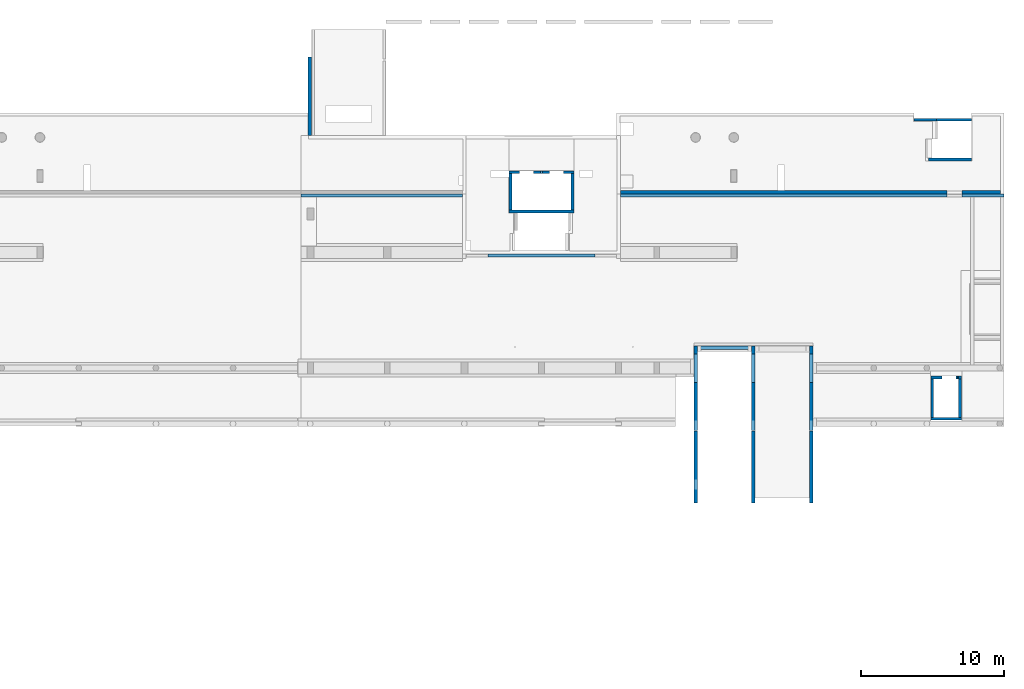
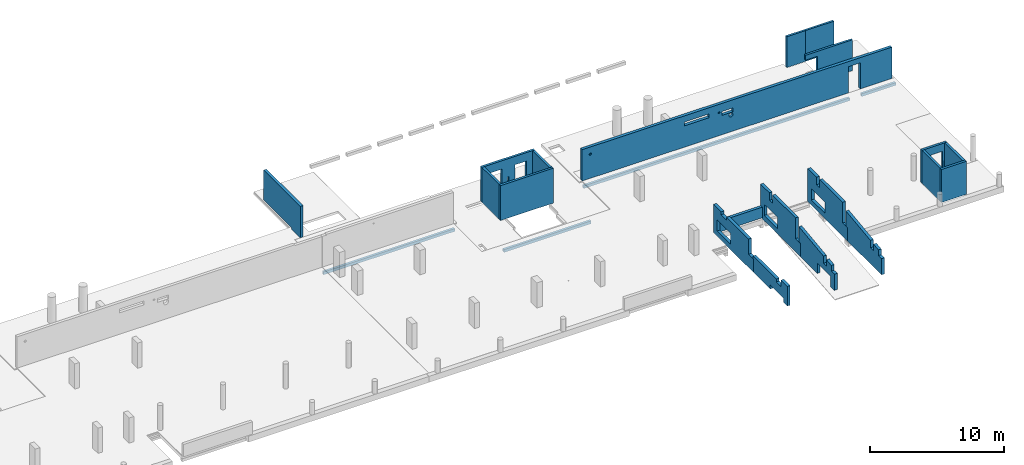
# One storey, part 7 of 10: 24 walls, 32 openings.
"""IFC2X3 building model written with IfcOpenShell, lengths in millimetres."""

from ifc_helpers import new_model, entity, si_unit, converted_unit, derived_unit, direction, frame, frame_2d, origin, origin_2d_with_axis, place, context, subcontext, project, spatial, polyline, rectangle, circle, outline, extrude, clip, halfspace, material, layer, layer_set, layer_usage, type_object, element, save


model = new_model("IFC2X3")

# Units and contexts
model_context = context("Model", 3, precision=0.01, world=origin(), true_north=direction((6.12303176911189e-17, 1.0)))
body_context = subcontext(model_context, "Body", "Model", "MODEL_VIEW")
ifc_project = project(units=[si_unit("LENGTHUNIT", "METRE", prefix="MILLI"), si_unit("AREAUNIT", "SQUARE_METRE"), si_unit("VOLUMEUNIT", "CUBIC_METRE"), converted_unit("PLANEANGLEUNIT", "DEGREE", entity("IfcRatioMeasure", 0.0174532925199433), si_unit("PLANEANGLEUNIT", "RADIAN"), dimensions=[0, 0, 0, 0, 0, 0, 0]), si_unit("MASSUNIT", "GRAM", prefix="KILO"), derived_unit("MASSDENSITYUNIT", [(si_unit("MASSUNIT", "GRAM", prefix="KILO"), 1), (si_unit("LENGTHUNIT", "METRE"), -3)]), si_unit("TIMEUNIT", "SECOND"), si_unit("FREQUENCYUNIT", "HERTZ"), si_unit("THERMODYNAMICTEMPERATUREUNIT", "DEGREE_CELSIUS"), derived_unit("THERMALTRANSMITTANCEUNIT", [(si_unit("MASSUNIT", "GRAM", prefix="KILO"), 1), (si_unit("THERMODYNAMICTEMPERATUREUNIT", "KELVIN"), -1), (si_unit("TIMEUNIT", "SECOND"), -3)]), derived_unit("VOLUMETRICFLOWRATEUNIT", [(si_unit("LENGTHUNIT", "METRE"), 3), (si_unit("TIMEUNIT", "SECOND"), -1)]), si_unit("ELECTRICCURRENTUNIT", "AMPERE"), si_unit("ELECTRICVOLTAGEUNIT", "VOLT"), si_unit("POWERUNIT", "WATT"), si_unit("FORCEUNIT", "NEWTON", prefix="KILO"), si_unit("ILLUMINANCEUNIT", "LUX"), si_unit("LUMINOUSFLUXUNIT", "LUMEN"), si_unit("LUMINOUSINTENSITYUNIT", "CANDELA"), derived_unit("USERDEFINED", [(si_unit("MASSUNIT", "GRAM", prefix="KILO"), -1), (si_unit("LENGTHUNIT", "METRE"), -2), (si_unit("TIMEUNIT", "SECOND"), 3), (si_unit("LUMINOUSFLUXUNIT", "LUMEN"), 1)]), derived_unit("LINEARVELOCITYUNIT", [(si_unit("LENGTHUNIT", "METRE"), 1), (si_unit("TIMEUNIT", "SECOND"), -1)]), si_unit("PRESSUREUNIT", "PASCAL"), derived_unit("USERDEFINED", [(si_unit("LENGTHUNIT", "METRE"), -2), (si_unit("MASSUNIT", "GRAM", prefix="KILO"), 1), (si_unit("TIMEUNIT", "SECOND"), -2)])], contexts=[model_context])

# Site, building, storey
site_placement = place(None, origin())
site = spatial("IfcSite", under=ifc_project, at=site_placement, Name="Default", CompositionType="ELEMENT")
building_placement = place(site_placement, origin())
building = spatial("IfcBuilding", under=site, at=building_placement, Name="niet gebruiken", CompositionType="ELEMENT")
storey_placement = place(building_placement, frame((0.0, 0.0, 9410.0)))
storey = spatial("IfcBuildingStorey", under=building, at=storey_placement, Name="02b tweede tussenverdieping", CompositionType="ELEMENT", Elevation=9409.99999999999)

# Wall, openings
ifc_material_1 = material(Name="NLRS_f2_beton ihwg")
ifc_layer_1 = layer(ifc_material_1, 250.0)
ifc_layer_set_1 = layer_set([ifc_layer_1], Name="Basic Wall:NLRS_22.21_WA_beton ihwg d=250_gen")
ifc_layer_usage_1 = layer_usage(ifc_layer_set_1, "AXIS2", "NEGATIVE", 125.0)
wall_type_1 = type_object("IfcWallType", Name="Basic Wall:NLRS_22.21_WA_beton ihwg d=250_gen", PredefinedType="STANDARD", material=ifc_layer_set_1)
wall_1_placement = place(storey_placement, frame((123950.0, 41186.0, 0.0), z_axis=(0.0, 0.0, 1.0), x_axis=(-1.0, 0.0, 0.0)))
wall_1 = element("IfcWallStandardCase", 1, at=wall_1_placement, inside=storey, type_object=wall_type_1, material=ifc_layer_usage_1, Name="Basic Wall:NLRS_22.21_WA_beton ihwg d=250_gen", ObjectType="Basic Wall:NLRS_22.21_WA_beton ihwg d=250_gen", context=body_context, shape_type="SweptSolid", body=[
    extrude(rectangle(XDim=26625.0000000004, YDim=249.999999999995, at=frame_2d((13312.5000000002, -1.24344978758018e-12), x_axis=(-1.0, 0.0))), origin(), (0.0, 0.0, 1.0), 2850.00000000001),
])
opening_1_placement = place(wall_1_placement, origin())
element("IfcOpeningElement", 2, at=opening_1_placement, cuts=wall_1, Name="Basic Wall:NLRS_22.21_WA_beton ihwg d=250_gen", ObjectType="Opening", context=body_context, shape_type="SweptSolid", body=[
    extrude(rectangle(XDim=2380.0, YDim=1024.99999999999, at=frame_2d((-1.02318153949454e-12, 0.0), x_axis=(1.0, 0.0))), frame((3212.5000000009, -1649.0, 1190.0), z_axis=(0.0, 1.0, 0.0), x_axis=(0.0, 0.0, 1.0)), (0.0, 0.0, 1.0), 3048.0),
])
opening_2_placement = place(wall_1_placement, origin())
element("IfcOpeningElement", 3, at=opening_2_placement, cuts=wall_1, Name="Basic Wall:NLRS_22.21_WA_beton ihwg d=250_gen", ObjectType="Opening", context=body_context, shape_type="SweptSolid", body=[
    extrude(rectangle(XDim=350.000000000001, YDim=2120.0, at=frame_2d((1.08002495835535e-12, 0.0), x_axis=(1.0, 0.0))), frame((16760.0, -125.0, 2115.0), z_axis=(0.0, 1.0, 0.0), x_axis=(0.0, 0.0, -1.0)), (0.0, 0.0, 1.0), 249.999999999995),
])
opening_3_placement = place(wall_1_placement, origin())
element("IfcOpeningElement", 4, at=opening_3_placement, cuts=wall_1, Name="Basic Wall:NLRS_22.21_WA_beton ihwg d=250_gen", ObjectType="Opening", context=body_context, shape_type="SweptSolid", body=[
    extrude(circle(Radius=177.5, at=origin_2d_with_axis()), frame((13830.0, -125.0, 1520.0), z_axis=(0.0, 1.0, 0.0), x_axis=(-1.0, 0.0, 0.0)), (0.0, 0.0, 1.0), 250.000000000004),
])
opening_4_placement = place(wall_1_placement, origin())
element("IfcOpeningElement", 5, at=opening_4_placement, cuts=wall_1, Name="Basic Wall:NLRS_22.21_WA_beton ihwg d=250_gen", ObjectType="Opening", context=body_context, shape_type="SweptSolid", body=[
    extrude(rectangle(XDim=350.000000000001, YDim=949.999999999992, at=frame_2d((-1.08002495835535e-12, 0.0), x_axis=(1.0, 0.0))), frame((14125.0, -125.0, 1935.0), z_axis=(0.0, 1.0, 0.0), x_axis=(0.0, 0.0, -1.0)), (0.0, 0.0, 1.0), 249.999999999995),
])
opening_5_placement = place(wall_1_placement, origin())
element("IfcOpeningElement", 6, at=opening_5_placement, cuts=wall_1, Name="Basic Wall:NLRS_22.21_WA_beton ihwg d=250_gen", ObjectType="Opening", context=body_context, shape_type="SweptSolid", body=[
    extrude(circle(Radius=100.0, at=origin_2d_with_axis()), frame((25925.0, -125.0, 2200.0), z_axis=(0.0, 1.0, 0.0), x_axis=(-1.0, 0.0, 0.0)), (0.0, 0.0, 1.0), 250.000000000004),
])
opening_6_placement = place(wall_1_placement, origin())
element("IfcOpeningElement", 7, at=opening_6_placement, cuts=wall_1, Name="Basic Wall:NLRS_22.21_WA_beton ihwg d=250_gen", ObjectType="Opening", context=body_context, shape_type="SweptSolid", body=[
    extrude(circle(Radius=80.0, at=origin_2d_with_axis()), frame((14865.0, -125.0, 2105.0), z_axis=(0.0, 1.0, 0.0), x_axis=(-1.0, 0.0, 0.0)), (0.0, 0.0, 1.0), 250.000000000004),
])

ifc_material_2 = material(Name="NLRS_f2_beton prefab")
ifc_layer_2 = layer(ifc_material_2, 250.0)
ifc_layer_set_2 = layer_set([ifc_layer_2], Name="Basic Wall:NLRS_22.21_WA_beton prefab d=250_gen")
ifc_layer_usage_2 = layer_usage(ifc_layer_set_2, "AXIS2", "NEGATIVE", 125.0)
wall_type_2 = type_object("IfcWallType", Name="Basic Wall:NLRS_22.21_WA_beton prefab d=250_gen", PredefinedType="STANDARD", material=ifc_layer_set_2)
wall_2_placement = place(storey_placement, frame((102600.0, 30426.0, -50.0), z_axis=(0.0, 0.0, 1.0), x_axis=(0.0, -1.0, 0.0)))
wall_2 = element("IfcWallStandardCase", 8, at=wall_2_placement, inside=storey, type_object=wall_type_2, material=ifc_layer_usage_2, Name="Basic Wall:NLRS_22.21_WA_beton prefab d=250_gen", ObjectType="Basic Wall:NLRS_22.21_WA_beton prefab d=250_gen", context=body_context, shape_type="Clipping", body=[
    clip(extrude(rectangle(XDim=5934.99999999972, YDim=250.000000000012, at=frame_2d((2967.49999999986, 0.0), x_axis=(-1.0, 0.0))), origin(), (0.0, 0.0, 1.0), 2580.0), halfspace(frame((0.0, -125.0, 2580.0), z_axis=(0.0, 0.0, 1.0), x_axis=(0.0, 1.0, 0.0)), False)),
])
opening_7_placement = place(wall_2_placement, origin())
element("IfcOpeningElement", 9, at=opening_7_placement, cuts=wall_2, Name="Basic Wall:NLRS_22.21_WA_beton prefab d=250_gen", ObjectType="Opening", context=body_context, shape_type="SweptSolid", body=[
    extrude(rectangle(XDim=1020.0, YDim=2000.0, at=frame_2d((0.0, -2.1600499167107e-12), x_axis=(1.0, 0.0))), frame((1550.0, -1649.0, 990.0), z_axis=(0.0, 1.0, 0.0), x_axis=(0.0, 0.0, 1.0)), (0.0, 0.0, 1.0), 3048.0),
])
opening_8_placement = place(wall_2_placement, origin())
element("IfcOpeningElement", 10, at=opening_8_placement, cuts=wall_2, Name="Basic Wall:NLRS_22.21_WA_beton prefab d=250_gen", ObjectType="Opening", context=body_context, shape_type="SweptSolid", body=[
    extrude(rectangle(XDim=1380.0, YDim=729.999999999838, at=frame_2d((1.08002495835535e-12, -2.1600499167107e-12), x_axis=(1.0, 0.0))), frame((5570.0, 125.0, 1890.0), z_axis=(0.0, -1.0, 0.0), x_axis=(0.0, 0.0, 1.0)), (0.0, 0.0, 1.0), 250.0),
])
opening_9_placement = place(wall_2_placement, origin())
element("IfcOpeningElement", 11, at=opening_9_placement, cuts=wall_2, Name="Basic Wall:NLRS_22.21_WA_beton prefab d=250_gen", ObjectType="Opening", context=body_context, shape_type="SweptSolid", body=[
    extrude(rectangle(XDim=259.999999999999, YDim=840.0, at=frame_2d((0.0, 1.08002495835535e-12), x_axis=(0.0, 1.0))), frame((1545.0, 125.0, 2450.0), z_axis=(0.0, -1.0, 0.0), x_axis=(-1.0, 0.0, 0.0)), (0.0, 0.0, 1.0), 250.0),
])

ifc_layer_usage_3 = layer_usage(ifc_layer_set_2, "AXIS2", "NEGATIVE", 125.0)
wall_3_placement = place(storey_placement, frame((106650.0, 30426.0, -50.0), z_axis=(0.0, 0.0, 1.0), x_axis=(0.0, -1.0, 0.0)))
wall_3 = element("IfcWallStandardCase", 12, at=wall_3_placement, inside=storey, type_object=wall_type_2, material=ifc_layer_usage_3, Name="Basic Wall:NLRS_22.21_WA_beton prefab d=250_gen", ObjectType="Basic Wall:NLRS_22.21_WA_beton prefab d=250_gen", context=body_context, shape_type="SweptSolid", body=[
    extrude(rectangle(XDim=5934.99999999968, YDim=250.000000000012, at=frame_2d((2967.49999999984, 0.0), x_axis=(-1.0, 0.0))), origin(), (0.0, 0.0, 1.0), 3079.99999999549),
])
opening_10_placement = place(wall_3_placement, origin())
element("IfcOpeningElement", 13, at=opening_10_placement, cuts=wall_3, Name="Basic Wall:NLRS_22.21_WA_beton prefab d=250_gen", ObjectType="Opening", context=body_context, shape_type="SweptSolid", body=[
    extrude(rectangle(XDim=1020.0, YDim=2000.0, at=frame_2d((0.0, 2.1600499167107e-12), x_axis=(1.0, 0.0))), frame((1550.0, -1649.0, 990.0), z_axis=(0.0, 1.0, 0.0), x_axis=(0.0, 0.0, 1.0)), (0.0, 0.0, 1.0), 3048.0),
])
opening_11_placement = place(wall_3_placement, origin())
element("IfcOpeningElement", 14, at=opening_11_placement, cuts=wall_3, Name="Basic Wall:NLRS_22.21_WA_beton prefab d=250_gen", ObjectType="Opening", context=body_context, shape_type="SweptSolid", body=[
    extrude(rectangle(XDim=1879.99999999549, YDim=729.999999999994, at=frame_2d((0.0, -2.1600499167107e-12), x_axis=(1.0, 0.0))), frame((5570.0, 125.0, 2140.0), z_axis=(0.0, -1.0, 0.0), x_axis=(0.0, 0.0, 1.0)), (0.0, 0.0, 1.0), 250.0),
])
opening_12_placement = place(wall_3_placement, origin())
element("IfcOpeningElement", 15, at=opening_12_placement, cuts=wall_3, Name="Basic Wall:NLRS_22.21_WA_beton prefab d=250_gen", ObjectType="Opening", context=body_context, shape_type="SweptSolid", body=[
    extrude(outline(polyline([(-755.0, -279.666666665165), (1030.0, -279.666666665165), (1030.0, -199.666666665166), (-275.0, -199.666666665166), (-275.0, 479.333333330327), (-755.0, 479.333333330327), (-755.0, -279.666666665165)])), frame((1030.0, 125.0, 2800.33333333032), z_axis=(0.0, -1.0, 0.0), x_axis=(-1.0, 0.0, 0.0)), (0.0, 0.0, 1.0), 250.0),
])

ifc_layer_usage_4 = layer_usage(ifc_layer_set_2, "AXIS2", "NEGATIVE", 125.0)
wall_4_placement = place(storey_placement, frame((110700.0, 30426.0, -50.0), z_axis=(0.0, 0.0, 1.0), x_axis=(0.0, -1.0, 0.0)))
wall_4 = element("IfcWallStandardCase", 16, at=wall_4_placement, inside=storey, type_object=wall_type_2, material=ifc_layer_usage_4, Name="Basic Wall:NLRS_22.21_WA_beton prefab d=250_gen", ObjectType="Basic Wall:NLRS_22.21_WA_beton prefab d=250_gen", context=body_context, shape_type="SweptSolid", body=[
    extrude(rectangle(XDim=5934.99999999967, YDim=250.000000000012, at=frame_2d((2967.49999999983, 0.0), x_axis=(-1.0, 0.0))), origin(), (0.0, 0.0, 1.0), 3079.99999999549),
])
opening_13_placement = place(wall_4_placement, origin())
element("IfcOpeningElement", 17, at=opening_13_placement, cuts=wall_4, Name="Basic Wall:NLRS_22.21_WA_beton prefab d=250_gen", ObjectType="Opening", context=body_context, shape_type="SweptSolid", body=[
    extrude(rectangle(XDim=1020.0, YDim=2000.0, at=frame_2d((0.0, -2.1600499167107e-12), x_axis=(1.0, 0.0))), frame((1550.0, -1649.0, 990.0), z_axis=(0.0, 1.0, 0.0), x_axis=(0.0, 0.0, 1.0)), (0.0, 0.0, 1.0), 3048.0),
])
opening_14_placement = place(wall_4_placement, origin())
element("IfcOpeningElement", 18, at=opening_14_placement, cuts=wall_4, Name="Basic Wall:NLRS_22.21_WA_beton prefab d=250_gen", ObjectType="Opening", context=body_context, shape_type="SweptSolid", body=[
    extrude(rectangle(XDim=1879.99999999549, YDim=729.999999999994, at=frame_2d((0.0, -2.1600499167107e-12), x_axis=(1.0, 0.0))), frame((5570.0, 125.0, 2140.0), z_axis=(0.0, -1.0, 0.0), x_axis=(0.0, 0.0, 1.0)), (0.0, 0.0, 1.0), 250.0),
])
opening_15_placement = place(wall_4_placement, origin())
element("IfcOpeningElement", 19, at=opening_15_placement, cuts=wall_4, Name="Basic Wall:NLRS_22.21_WA_beton prefab d=250_gen", ObjectType="Opening", context=body_context, shape_type="SweptSolid", body=[
    extrude(outline(polyline([(-755.0, -279.666666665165), (1030.0, -279.666666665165), (1030.0, -199.666666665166), (-275.0, -199.66666666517), (-275.0, 479.333333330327), (-755.0, 479.333333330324), (-755.0, -279.666666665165)])), frame((1030.0, 125.0, 2800.33333333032), z_axis=(0.0, -1.0, 0.0), x_axis=(-1.0, 0.0, 0.0)), (0.0, 0.0, 1.0), 250.0),
])

# Wall
ifc_layer_usage_5 = layer_usage(ifc_layer_set_2, "AXIS2", "NEGATIVE", 125.0)
wall_5_placement = place(storey_placement, frame((102725.0, 30301.0, 30.0)))
element("IfcWallStandardCase", 20, at=wall_5_placement, inside=storey, type_object=wall_type_2, material=ifc_layer_usage_5, Name="Basic Wall:NLRS_22.21_WA_beton prefab d=250_gen", ObjectType="Basic Wall:NLRS_22.21_WA_beton prefab d=250_gen", context=body_context, shape_type="SweptSolid", body=[
    extrude(rectangle(XDim=3800.0, YDim=250.000000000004, at=frame_2d((1900.0, -1.27897692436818e-13), x_axis=(-1.0, 0.0))), origin(), (0.0, 0.0, 1.0), 969.999999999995),
])

# Wall, openings
ifc_layer_usage_6 = layer_usage(ifc_layer_set_2, "AXIS2", "NEGATIVE", 125.0)
wall_6_placement = place(storey_placement, frame((102600.0, 24531.0, -50.0), z_axis=(0.0, 0.0, 1.0), x_axis=(0.0, -1.0, 0.0)))
wall_6 = element("IfcWallStandardCase", 21, at=wall_6_placement, inside=storey, type_object=wall_type_2, material=ifc_layer_usage_6, Name="Basic Wall:NLRS_22.21_WA_beton prefab d=250_gen", ObjectType="Basic Wall:NLRS_22.21_WA_beton prefab d=250_gen", context=body_context, shape_type="Clipping", body=[
    clip(extrude(rectangle(XDim=5104.99999999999, YDim=250.000000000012, at=frame_2d((2552.5, 0.0), x_axis=(-1.0, 0.0))), origin(), (0.0, 0.0, 1.0), 1780.0), halfspace(frame((4155.0, -125.0, 1780.0), z_axis=(0.0, 0.0, 1.0), x_axis=(0.0, 1.0, 0.0)), False)),
])
opening_16_placement = place(wall_6_placement, origin())
element("IfcOpeningElement", 22, at=opening_16_placement, cuts=wall_6, Name="Basic Wall:NLRS_22.21_WA_beton prefab d=250_gen", ObjectType="Opening", context=body_context, shape_type="SweptSolid", body=[
    extrude(outline(polyline([(-1615.0, -300.0), (2540.0, -300.0), (2540.0, 20.0), (-925.0, 20.0), (-925.0, 280.0), (-1615.0, 280.0), (-1615.0, -300.0)])), frame((2540.0, 125.0, 1480.0), z_axis=(0.0, -1.0, 0.0), x_axis=(-1.0, 0.0, 0.0)), (0.0, 0.0, 1.0), 250.0),
])
opening_17_placement = place(wall_6_placement, origin())
element("IfcOpeningElement", 23, at=opening_17_placement, cuts=wall_6, Name="Basic Wall:NLRS_22.21_WA_beton prefab d=250_gen", ObjectType="Opening", context=body_context, shape_type="SweptSolid", body=[
    extrude(rectangle(XDim=1220.0, YDim=59.9999999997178, at=frame_2d((-1.08002495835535e-12, 2.38244979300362e-11), x_axis=(1.0, 0.0))), frame((30.0, 125.0, 610.0), z_axis=(0.0, -1.0, 0.0), x_axis=(0.0, 0.0, -1.0)), (0.0, 0.0, 1.0), 250.0),
])
opening_18_placement = place(wall_6_placement, origin())
element("IfcOpeningElement", 24, at=opening_18_placement, cuts=wall_6, Name="Basic Wall:NLRS_22.21_WA_beton prefab d=250_gen", ObjectType="Opening", context=body_context, shape_type="SweptSolid", body=[
    extrude(rectangle(XDim=380.000000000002, YDim=2000.00000000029, at=frame_2d((2.1600499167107e-12, 2.17426077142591e-12), x_axis=(0.0, 1.0))), frame((3555.0, 125.0, 190.0), z_axis=(0.0, -1.0, 0.0), x_axis=(1.0, 0.0, 0.0)), (0.0, 0.0, 1.0), 250.0),
])

ifc_layer_usage_7 = layer_usage(ifc_layer_set_2, "AXIS2", "NEGATIVE", 125.0)
wall_7_placement = place(storey_placement, frame((106650.0, 24731.0, -50.0), z_axis=(0.0, 0.0, 1.0), x_axis=(0.0, -1.0, 0.0)))
wall_7 = element("IfcWallStandardCase", 25, at=wall_7_placement, inside=storey, type_object=wall_type_2, material=ifc_layer_usage_7, Name="Basic Wall:NLRS_22.21_WA_beton prefab d=250_gen", ObjectType="Basic Wall:NLRS_22.21_WA_beton prefab d=250_gen", context=body_context, shape_type="Clipping", body=[
    clip(clip(clip(clip(extrude(rectangle(XDim=5305.00000000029, YDim=250.000000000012, at=frame_2d((2652.50000000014, 0.0), x_axis=(-1.0, 0.0))), origin(), (0.0, 0.0, 1.0), 2588.96199659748), halfspace(frame((4105.0, -125.0, 2077.33408962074), z_axis=(0.123826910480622, 0.0, 0.992303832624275), x_axis=(0.0, 1.0, 0.0)), False)), halfspace(frame((0.0, -125.0, 2588.96199659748), z_axis=(0.123660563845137, 0.0, 0.992324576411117), x_axis=(0.0, 1.0, 0.0)), False)), halfspace(frame((4835.0, 0.0, 1986.23936472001), z_axis=(0.737824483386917, 0.0, 0.674992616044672), x_axis=(0.0, -1.0, 0.0)), False)), halfspace(frame((3665.0, 0.0, 2132.24049914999), z_axis=(0.123826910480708, 0.0, 0.992303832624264), x_axis=(0.0, -1.0, 0.0)), False)),
])
opening_19_placement = place(wall_7_placement, origin())
element("IfcOpeningElement", 26, at=opening_19_placement, cuts=wall_7, Name="Basic Wall:NLRS_22.21_WA_beton prefab d=250_gen", ObjectType="Opening", context=body_context, shape_type="SweptSolid", body=[
    extrude(rectangle(XDim=959.999999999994, YDim=2000.0, at=frame_2d((0.0, 2.1600499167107e-12), x_axis=(1.0, 0.0))), frame((3755.0, 125.0, 480.0), z_axis=(0.0, -1.0, 0.0), x_axis=(0.0, 0.0, 1.0)), (0.0, 0.0, 1.0), 250.0),
])
opening_20_placement = place(wall_7_placement, origin())
element("IfcOpeningElement", 27, at=opening_20_placement, cuts=wall_7, Name="Basic Wall:NLRS_22.21_WA_beton prefab d=250_gen", ObjectType="Opening", context=body_context, shape_type="SweptSolid", body=[
    extrude(rectangle(XDim=1220.0, YDim=259.999999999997, at=frame_2d((0.0, 2.1600499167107e-12), x_axis=(1.0, 0.0))), frame((130.0, 125.0, 610.0), z_axis=(0.0, -1.0, 0.0), x_axis=(0.0, 0.0, 1.0)), (0.0, 0.0, 1.0), 250.0),
])
opening_21_placement = place(wall_7_placement, origin())
element("IfcOpeningElement", 28, at=opening_21_placement, cuts=wall_7, Name="Basic Wall:NLRS_22.21_WA_beton prefab d=250_gen", ObjectType="Opening", context=body_context, shape_type="SweptSolid", body=[
    extrude(outline(polyline([(-344.846851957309, -220.0), (317.393647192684, -220.0), (317.393647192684, 220.0), (-289.94044242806, 220.0), (-344.846851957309, -220.0)])), frame((3885.0, 125.0, 1787.39364719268), z_axis=(0.0, -1.0, 0.0), x_axis=(0.0, 0.0, -1.0)), (0.0, 0.0, 1.0), 250.0),
])
opening_22_placement = place(wall_7_placement, origin())
element("IfcOpeningElement", 29, at=opening_22_placement, cuts=wall_7, Name="Basic Wall:NLRS_22.21_WA_beton prefab d=250_gen", ObjectType="Opening", context=body_context, shape_type="SweptSolid", body=[
    extrude(outline(polyline([(-342.500050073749, -156.666666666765), (171.250025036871, -156.666666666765), (171.250025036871, 313.333333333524), (-342.500050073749, -156.666666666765)])), frame((4991.66666666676, 125.0, 1643.73931464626), z_axis=(0.0, -1.0, 0.0), x_axis=(0.0, 0.0, -1.0)), (0.0, 0.0, 1.0), 250.0),
])

ifc_layer_usage_8 = layer_usage(ifc_layer_set_2, "AXIS2", "NEGATIVE", 125.0)
wall_8_placement = place(storey_placement, frame((110700.0, 24731.0, -50.0), z_axis=(0.0, 0.0, 1.0), x_axis=(0.0, -1.0, 0.0)))
wall_8 = element("IfcWallStandardCase", 30, at=wall_8_placement, inside=storey, type_object=wall_type_2, material=ifc_layer_usage_8, Name="Basic Wall:NLRS_22.21_WA_beton prefab d=250_gen", ObjectType="Basic Wall:NLRS_22.21_WA_beton prefab d=250_gen", context=body_context, shape_type="Clipping", body=[
    clip(clip(clip(clip(extrude(rectangle(XDim=5305.0000000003, YDim=250.000000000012, at=frame_2d((2652.50000000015, 0.0), x_axis=(-1.0, 0.0))), origin(), (0.0, 0.0, 1.0), 2589.58593307), halfspace(frame((0.0, -125.0, 2589.58593307), z_axis=(0.123826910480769, 0.0, 0.992303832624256), x_axis=(0.0, 1.0, 0.0)), False)), halfspace(frame((4105.0, -125.0, 2077.33408962), z_axis=(0.123826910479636, 0.0, 0.992303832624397), x_axis=(0.0, 1.0, 0.0)), False)), halfspace(frame((3665.0, 0.0, 2132.24049915), z_axis=(0.123826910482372, 0.0, 0.992303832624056), x_axis=(0.0, -1.0, 0.0)), False)), halfspace(frame((4835.0, 0.0, 1986.23936472), z_axis=(0.739446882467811, 0.0, 0.673214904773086), x_axis=(0.0, -1.0, 0.0)), False)),
])
opening_23_placement = place(wall_8_placement, origin())
element("IfcOpeningElement", 31, at=opening_23_placement, cuts=wall_8, Name="Basic Wall:NLRS_22.21_WA_beton prefab d=250_gen", ObjectType="Opening", context=body_context, shape_type="SweptSolid", body=[
    extrude(outline(polyline([(-344.8468519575, -220.0), (317.3936471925, -220.0), (317.3936471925, 220.0), (-289.940442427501, 220.0), (-344.8468519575, -220.0)])), frame((3885.0, 125.0, 1787.3936471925), z_axis=(0.0, -1.0, 0.0), x_axis=(0.0, 0.0, -1.0)), (0.0, 0.0, 1.0), 250.0),
])
opening_24_placement = place(wall_8_placement, origin())
element("IfcOpeningElement", 32, at=opening_24_placement, cuts=wall_8, Name="Basic Wall:NLRS_22.21_WA_beton prefab d=250_gen", ObjectType="Opening", context=body_context, shape_type="SweptSolid", body=[
    extrude(outline(polyline([(-344.159576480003, -156.66666666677), (172.079788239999, -156.66666666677), (172.079788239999, 313.333333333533), (-344.159576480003, -156.66666666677)])), frame((4991.66666666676, 125.0, 1642.07978824), z_axis=(0.0, -1.0, 0.0), x_axis=(0.0, 0.0, -1.0)), (0.0, 0.0, 1.0), 250.0),
])
opening_25_placement = place(wall_8_placement, origin())
element("IfcOpeningElement", 33, at=opening_25_placement, cuts=wall_8, Name="Basic Wall:NLRS_22.21_WA_beton prefab d=250_gen", ObjectType="Opening", context=body_context, shape_type="SweptSolid", body=[
    extrude(rectangle(XDim=1220.0, YDim=259.999999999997, at=frame_2d((1.08002495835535e-12, 2.1600499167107e-12), x_axis=(1.0, 0.0))), frame((130.0, 125.0, 610.0), z_axis=(0.0, -1.0, 0.0), x_axis=(0.0, 0.0, 1.0)), (0.0, 0.0, 1.0), 250.0),
])

# Wall, opening
ifc_layer_3 = layer(ifc_material_2, 180.0)
ifc_layer_set_3 = layer_set([ifc_layer_3], Name="Basic Wall:NLRS_22.21_WA_beton prefab d=180_gen")
ifc_layer_usage_9 = layer_usage(ifc_layer_set_3, "AXIS2", "NEGATIVE", 90.0)
wall_type_3 = type_object("IfcWallType", Name="Basic Wall:NLRS_22.21_WA_beton prefab d=180_gen", PredefinedType="STANDARD", material=ifc_layer_set_3)
wall_9_placement = place(storey_placement, frame((117880.002875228, 43486.0, 20.0)))
wall_9 = element("IfcWallStandardCase", 34, at=wall_9_placement, inside=storey, type_object=wall_type_3, material=ifc_layer_usage_9, Name="Basic Wall:NLRS_22.21_WA_beton prefab d=180_gen", ObjectType="Basic Wall:NLRS_22.21_WA_beton prefab d=180_gen", context=body_context, shape_type="SweptSolid", body=[
    extrude(rectangle(XDim=4049.99712477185, YDim=179.999999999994, at=frame_2d((2024.99856238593, 3.5527136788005e-14), x_axis=(-1.0, 0.0))), origin(), (0.0, 0.0, 1.0), 2800.0),
])
opening_26_placement = place(wall_9_placement, origin())
element("IfcOpeningElement", 35, at=opening_26_placement, cuts=wall_9, Name="Basic Wall:NLRS_22.21_WA_beton prefab d=180_gen", ObjectType="Opening", context=body_context, shape_type="SweptSolid", body=[
    extrude(rectangle(XDim=2360.0, YDim=1025.00000000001, at=frame_2d((0.0, -8.64019966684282e-12), x_axis=(1.0, 0.0))), frame((512.499999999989, 90.0, 1180.0), z_axis=(0.0, -1.0, 0.0), x_axis=(0.0, 0.0, 1.0)), (0.0, 0.0, 1.0), 180.0),
])

# Walls
ifc_layer_usage_10 = layer_usage(ifc_layer_set_3, "AXIS2", "NEGATIVE", 90.0)
wall_10_placement = place(storey_placement, frame((117880.0, 46266.0, 20.0)))
element("IfcWallStandardCase", 36, at=wall_10_placement, inside=storey, type_object=wall_type_3, material=ifc_layer_usage_10, Name="Basic Wall:NLRS_22.21_WA_beton prefab d=180_gen", ObjectType="Basic Wall:NLRS_22.21_WA_beton prefab d=180_gen", context=body_context, shape_type="SweptSolid", body=[
    extrude(rectangle(XDim=1605.00000000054, YDim=179.999999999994, at=frame_2d((802.500000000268, 0.0), x_axis=(-1.0, 0.0))), origin(), (0.0, 0.0, 1.0), 2800.00000000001),
])
ifc_layer_usage_11 = layer_usage(ifc_layer_set_3, "AXIS2", "NEGATIVE", 90.0)
wall_11_placement = place(storey_placement, frame((119485.0, 46266.0, 20.0)))
element("IfcWallStandardCase", 37, at=wall_11_placement, inside=storey, type_object=wall_type_3, material=ifc_layer_usage_11, Name="Basic Wall:NLRS_22.21_WA_beton prefab d=180_gen", ObjectType="Basic Wall:NLRS_22.21_WA_beton prefab d=180_gen", context=body_context, shape_type="SweptSolid", body=[
    extrude(rectangle(XDim=2444.99929368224, YDim=179.999999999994, at=frame_2d((1222.49964684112, 0.0), x_axis=(-1.0, 0.0))), origin(), (0.0, 0.0, 1.0), 2800.00000000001),
])

# Wall, openings
ifc_layer_4 = layer(ifc_material_2, 200.0)
ifc_layer_set_4 = layer_set([ifc_layer_4], Name="Basic Wall:NLRS_22.21_WA_beton prefab d=200_gen")
ifc_layer_usage_12 = layer_usage(ifc_layer_set_4, "AXIS2", "NEGATIVE", 100.0)
wall_type_4 = type_object("IfcWallType", Name="Basic Wall:NLRS_22.21_WA_beton prefab d=200_gen", PredefinedType="STANDARD", material=ifc_layer_set_4)
wall_12_placement = place(storey_placement, frame((89525.0, 42596.0, -70.0)))
wall_12 = element("IfcWallStandardCase", 38, at=wall_12_placement, inside=storey, type_object=wall_type_4, material=ifc_layer_usage_12, Name="Basic Wall:NLRS_22.21_WA_beton prefab d=200_gen", ObjectType="Basic Wall:NLRS_22.21_WA_beton prefab d=200_gen", context=body_context, shape_type="SweptSolid", body=[
    extrude(rectangle(XDim=4549.9999999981, YDim=200.000000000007, at=frame_2d((2274.99999999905, 0.0), x_axis=(-1.0, 0.0))), origin(), (0.0, 0.0, 1.0), 3170.00000000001),
])
opening_27_placement = place(wall_12_placement, origin())
element("IfcOpeningElement", 39, at=opening_27_placement, cuts=wall_12, Name="Basic Wall:NLRS_22.21_WA_beton prefab d=200_gen", ObjectType="Opening", context=body_context, shape_type="SweptSolid", body=[
    extrude(rectangle(XDim=2430.0, YDim=980.000000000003, at=frame_2d((4.54747350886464e-13, 8.66862137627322e-12), x_axis=(1.0, 0.0))), frame((3330.0, -1624.0, 1195.0), z_axis=(0.0, 1.0, 0.0), x_axis=(0.0, 0.0, 1.0)), (0.0, 0.0, 1.0), 3048.0),
])
opening_28_placement = place(wall_12_placement, origin())
element("IfcOpeningElement", 40, at=opening_28_placement, cuts=wall_12, Name="Basic Wall:NLRS_22.21_WA_beton prefab d=200_gen", ObjectType="Opening", context=body_context, shape_type="SweptSolid", body=[
    extrude(rectangle(XDim=2430.0, YDim=980.000000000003, at=frame_2d((4.54747350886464e-13, -8.66862137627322e-12), x_axis=(1.0, 0.0))), frame((1220.0, -1624.0, 1195.0), z_axis=(0.0, 1.0, 0.0), x_axis=(0.0, 0.0, 1.0)), (0.0, 0.0, 1.0), 3048.0),
])
opening_29_placement = place(wall_12_placement, origin())
element("IfcOpeningElement", 41, at=opening_29_placement, cuts=wall_12, Name="Basic Wall:NLRS_22.21_WA_beton prefab d=200_gen", ObjectType="Opening", context=body_context, shape_type="SweptSolid", body=[
    extrude(rectangle(XDim=505.000000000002, YDim=135.000000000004, at=frame_2d((0.0, 8.66151594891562e-12), x_axis=(1.0, 0.0))), frame((2275.000150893, -1624.0, 1272.5), z_axis=(0.0, 1.0, 0.0), x_axis=(0.0, 0.0, 1.0)), (0.0, 0.0, 1.0), 3048.0),
])

# Walls
ifc_layer_usage_13 = layer_usage(ifc_layer_set_4, "AXIS2", "NEGATIVE", 100.0)
wall_13_placement = place(storey_placement, frame((89625.0, 39946.0, -70.0), z_axis=(0.0, 0.0, 1.0), x_axis=(0.0, 1.0, 0.0)))
element("IfcWallStandardCase", 42, at=wall_13_placement, inside=storey, type_object=wall_type_4, material=ifc_layer_usage_13, Name="Basic Wall:NLRS_22.21_WA_beton prefab d=200_gen", ObjectType="Basic Wall:NLRS_22.21_WA_beton prefab d=200_gen", context=body_context, shape_type="SweptSolid", body=[
    extrude(rectangle(XDim=2549.99999999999, YDim=199.999999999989, at=frame_2d((1275.0, 0.0), x_axis=(-1.0, 0.0))), origin(), (0.0, 0.0, 1.0), 3170.00000000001),
])
ifc_layer_usage_14 = layer_usage(ifc_layer_set_4, "AXIS2", "NEGATIVE", 100.0)
wall_14_placement = place(storey_placement, frame((93975.0, 42496.0, -70.0), z_axis=(0.0, 0.0, 1.0), x_axis=(0.0, -1.0, 0.0)))
element("IfcWallStandardCase", 43, at=wall_14_placement, inside=storey, type_object=wall_type_4, material=ifc_layer_usage_14, Name="Basic Wall:NLRS_22.21_WA_beton prefab d=200_gen", ObjectType="Basic Wall:NLRS_22.21_WA_beton prefab d=200_gen", context=body_context, shape_type="SweptSolid", body=[
    extrude(rectangle(XDim=2549.99999999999, YDim=199.999999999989, at=frame_2d((1275.0, -4.09272615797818e-12), x_axis=(-1.0, 0.0))), origin(), (0.0, 0.0, 1.0), 3170.0),
])
ifc_layer_usage_15 = layer_usage(ifc_layer_set_4, "AXIS2", "NEGATIVE", 100.0)
wall_15_placement = place(storey_placement, frame((94075.0, 39846.0, -70.0), z_axis=(0.0, 0.0, 1.0), x_axis=(-1.0, 0.0, 0.0)))
element("IfcWallStandardCase", 44, at=wall_15_placement, inside=storey, type_object=wall_type_4, material=ifc_layer_usage_15, Name="Basic Wall:NLRS_22.21_WA_beton prefab d=200_gen", ObjectType="Basic Wall:NLRS_22.21_WA_beton prefab d=200_gen", context=body_context, shape_type="SweptSolid", body=[
    extrude(rectangle(XDim=4549.99999999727, YDim=200.000000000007, at=frame_2d((2274.99999999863, 0.0), x_axis=(-1.0, 0.0))), origin(), (0.0, 0.0, 1.0), 3170.00000000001),
])
ifc_layer_usage_16 = layer_usage(ifc_layer_set_4, "AXIS2", "NEGATIVE", 100.0)
wall_16_placement = place(storey_placement, frame((121225.0, 25326.0, 30.0), z_axis=(0.0, 0.0, 1.0), x_axis=(-1.0, 0.0, 0.0)))
element("IfcWallStandardCase", 45, at=wall_16_placement, inside=storey, type_object=wall_type_4, material=ifc_layer_usage_16, Name="Basic Wall:NLRS_22.21_WA_beton prefab d=200_gen", ObjectType="Basic Wall:NLRS_22.21_WA_beton prefab d=200_gen", context=body_context, shape_type="SweptSolid", body=[
    extrude(rectangle(XDim=2150.00000000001, YDim=199.999999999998, at=frame_2d((1075.00000000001, -2.48689957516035e-13), x_axis=(-1.0, 0.0))), origin(), (0.0, 0.0, 1.0), 3000.00000000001),
])

# Wall, openings
ifc_layer_usage_17 = layer_usage(ifc_layer_set_4, "AXIS2", "NEGATIVE", 100.0)
wall_17_placement = place(storey_placement, frame((121225.0, 28206.0, 30.0), z_axis=(0.0, 0.0, 1.0), x_axis=(-1.0, 0.0, 0.0)))
wall_17 = element("IfcWallStandardCase", 46, at=wall_17_placement, inside=storey, type_object=wall_type_4, material=ifc_layer_usage_17, Name="Basic Wall:NLRS_22.21_WA_beton prefab d=200_gen", ObjectType="Basic Wall:NLRS_22.21_WA_beton prefab d=200_gen", context=body_context, shape_type="SweptSolid", body=[
    extrude(rectangle(XDim=2150.00000000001, YDim=199.999999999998, at=frame_2d((1075.00000000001, -2.48689957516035e-13), x_axis=(-1.0, 0.0))), origin(), (0.0, 0.0, 1.0), 3000.00000000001),
])
opening_30_placement = place(wall_17_placement, origin())
element("IfcOpeningElement", 47, at=opening_30_placement, cuts=wall_17, Name="Basic Wall:NLRS_22.21_WA_beton prefab d=200_gen", ObjectType="Opening", context=body_context, shape_type="SweptSolid", body=[
    extrude(rectangle(XDim=2340.0, YDim=980.000000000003, at=frame_2d((8.66862137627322e-12, 0.0), x_axis=(0.0, 1.0))), frame((870.0, -1424.0, 1140.0), z_axis=(0.0, 1.0, 0.0), x_axis=(-1.0, 0.0, 0.0)), (0.0, 0.0, 1.0), 3048.0),
])
opening_31_placement = place(wall_17_placement, origin())
element("IfcOpeningElement", 48, at=opening_31_placement, cuts=wall_17, Name="Basic Wall:NLRS_22.21_WA_beton prefab d=200_gen", ObjectType="Opening", context=body_context, shape_type="SweptSolid", body=[
    extrude(rectangle(XDim=505.000000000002, YDim=75.0000000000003, at=origin_2d_with_axis()), frame((237.500000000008, -1624.0, 1172.5), z_axis=(0.0, 1.0, 0.0), x_axis=(0.0, 0.0, 1.0)), (0.0, 0.0, 1.0), 3048.0),
])

# Walls
ifc_layer_usage_18 = layer_usage(ifc_layer_set_4, "AXIS2", "NEGATIVE", 100.0)
wall_18_placement = place(storey_placement, frame((119175.0, 25426.0, 30.0), z_axis=(0.0, 0.0, 1.0), x_axis=(0.0, 1.0, 0.0)))
element("IfcWallStandardCase", 49, at=wall_18_placement, inside=storey, type_object=wall_type_4, material=ifc_layer_usage_18, Name="Basic Wall:NLRS_22.21_WA_beton prefab d=200_gen", ObjectType="Basic Wall:NLRS_22.21_WA_beton prefab d=200_gen", context=body_context, shape_type="SweptSolid", body=[
    extrude(rectangle(XDim=2680.0, YDim=199.999999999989, at=frame_2d((1340.0, 0.0), x_axis=(-1.0, 0.0))), origin(), (0.0, 0.0, 1.0), 3000.00000000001),
])
ifc_layer_usage_19 = layer_usage(ifc_layer_set_4, "AXIS2", "NEGATIVE", 100.0)
wall_19_placement = place(storey_placement, frame((121125.0, 25426.0, 30.0), z_axis=(0.0, 0.0, 1.0), x_axis=(0.0, 1.0, 0.0)))
element("IfcWallStandardCase", 50, at=wall_19_placement, inside=storey, type_object=wall_type_4, material=ifc_layer_usage_19, Name="Basic Wall:NLRS_22.21_WA_beton prefab d=200_gen", ObjectType="Basic Wall:NLRS_22.21_WA_beton prefab d=200_gen", context=body_context, shape_type="SweptSolid", body=[
    extrude(rectangle(XDim=2680.0, YDim=199.999999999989, at=frame_2d((1340.0, 0.0), x_axis=(-1.0, 0.0))), origin(), (0.0, 0.0, 1.0), 3000.00000000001),
])

# Wall, opening
ifc_layer_5 = layer(ifc_material_1, 250.0)
ifc_layer_set_5 = layer_set([ifc_layer_5], Name="Basic Wall:NLRS_21.21_WA_beton ihwg d=250_gen")
ifc_layer_usage_20 = layer_usage(ifc_layer_set_5, "AXIS2", "NEGATIVE", 125.0)
wall_type_5 = type_object("IfcWallType", Name="Basic Wall:NLRS_21.21_WA_beton ihwg d=250_gen", PredefinedType="STANDARD", material=ifc_layer_set_5)
wall_20_placement = place(storey_placement, frame((75575.0, 45176.0, 0.0), z_axis=(0.0, 0.0, 1.0), x_axis=(0.0, 1.0, 0.0)))
wall_20 = element("IfcWallStandardCase", 51, at=wall_20_placement, inside=storey, type_object=wall_type_5, material=ifc_layer_usage_20, Name="Basic Wall:NLRS_21.21_WA_beton ihwg d=250_gen", ObjectType="Basic Wall:NLRS_21.21_WA_beton ihwg d=250_gen", context=body_context, shape_type="Clipping", body=[
    clip(extrude(rectangle(XDim=5472.81315921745, YDim=249.999999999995, at=frame_2d((2736.40657960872, 2.03215222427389e-12), x_axis=(-1.0, 0.0))), origin(), (0.0, 0.0, 1.0), 2849.99999999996), halfspace(frame((0.0, -125.0, 2850.0), z_axis=(0.0, 0.0, 1.0), x_axis=(0.0, 1.0, 0.0)), False)),
])
opening_32_placement = place(wall_20_placement, origin())
element("IfcOpeningElement", 52, at=opening_32_placement, cuts=wall_20, Name="Basic Wall:NLRS_21.21_WA_beton ihwg d=250_gen", ObjectType="Opening", context=body_context, shape_type="SweptSolid", body=[
    extrude(rectangle(XDim=130.000000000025, YDim=4152.81315921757, at=frame_2d((4.32009983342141e-12, -9.74154090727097e-12), x_axis=(0.0, 1.0))), frame((3396.40657960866, 125.0, 65.0), z_axis=(0.0, -1.0, 0.0), x_axis=(1.0, 0.0, 0.0)), (0.0, 0.0, 1.0), 250.0),
])

# Walls
wall_type_6 = type_object("IfcWallType", Name="NLRS_21.21_SF_WPB_oplegnok ihwg beton_gen:200x250", PredefinedType="NOTDEFINED", material=ifc_material_1)
wall_21_placement = place(storey_placement, frame((97345.0, 40861.0, -580.0)))
element("IfcWall", 53, at=wall_21_placement, inside=storey, type_object=wall_type_6, material=ifc_material_1, Name="NLRS_21.21_SF_WPB_oplegnok ihwg beton_gen:200x250", ObjectType="NLRS_21.21_SF_WPB_oplegnok ihwg beton_gen:200x250", context=body_context, shape_type="SweptSolid", body=[
    extrude(rectangle(XDim=22879.9999999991, YDim=199.999999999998, at=origin_2d_with_axis()), frame((11440.0, 100.0, 0.0)), (0.0, 0.0, 1.0), 250.000000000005),
])
wall_22_placement = place(storey_placement, frame((74970.0, 40861.0, -580.0)))
element("IfcWall", 54, at=wall_22_placement, inside=storey, type_object=wall_type_6, material=ifc_material_1, Name="NLRS_21.21_SF_WPB_oplegnok ihwg beton_gen:200x250", ObjectType="NLRS_21.21_SF_WPB_oplegnok ihwg beton_gen:200x250", context=body_context, shape_type="SweptSolid", body=[
    extrude(rectangle(XDim=11285.0, YDim=199.999999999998, at=frame_2d((0.0, -4.33431068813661e-12), x_axis=(1.0, 0.0))), frame((5642.50000000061, 100.0, 0.0)), (0.0, 0.0, 1.0), 250.000000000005),
])
wall_23_placement = place(storey_placement, frame((88055.0, 36656.0, -580.0)))
element("IfcWall", 55, at=wall_23_placement, inside=storey, type_object=wall_type_6, material=ifc_material_1, Name="NLRS_21.21_SF_WPB_oplegnok ihwg beton_gen:200x250", ObjectType="NLRS_21.21_SF_WPB_oplegnok ihwg beton_gen:200x250", context=body_context, shape_type="SweptSolid", body=[
    extrude(rectangle(XDim=7490.0, YDim=200.000000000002, at=origin_2d_with_axis()), frame((3745.0, 100.0, 0.0)), (0.0, 0.0, 1.0), 250.000000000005),
])
wall_24_placement = place(storey_placement, frame((121250.0, 40861.0, -580.0)))
element("IfcWall", 56, at=wall_24_placement, inside=storey, type_object=wall_type_6, material=ifc_material_1, Name="NLRS_21.21_SF_WPB_oplegnok ihwg beton_gen:200x250", ObjectType="NLRS_21.21_SF_WPB_oplegnok ihwg beton_gen:200x250", context=body_context, shape_type="SweptSolid", body=[
    extrude(rectangle(XDim=2950.00000000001, YDim=199.999999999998, at=frame_2d((8.64019966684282e-12, 0.0), x_axis=(1.0, 0.0))), frame((1475.0, 100.0, 0.0)), (0.0, 0.0, 1.0), 250.000000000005),
])

save(model, "model.ifc")
